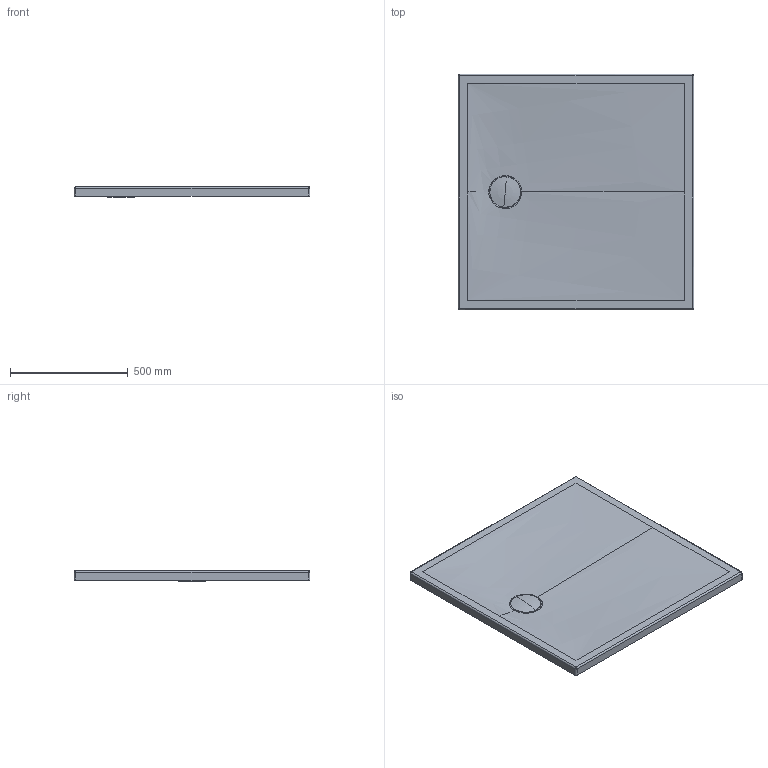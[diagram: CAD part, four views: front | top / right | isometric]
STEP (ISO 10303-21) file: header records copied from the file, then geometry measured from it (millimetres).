
FILE_DESCRIPTION(/* description */ (''),/* implementation_level */ '2;1');
FILE_NAME(/* name */ '720189',/* time_stamp */ '2019-03-04T16:21:07+01:00',/* author */ (''),/* organization */ (''),/* preprocessor_version */ 'ST-DEVELOPER v15',/* originating_system */ '',/* authorisation */ '');
FILE_SCHEMA (('AUTOMOTIVE_DESIGN'));
Length unit declared in the file: millimetre
Products named in the file (1): Document
Bounding box: 1000 x 1000 x 45.08 mm (x, y, z)
Volume: 85786 mm3; surface area: 1202840.9 mm2
Topology: 2 solids, 3 shells, 41 faces, 96 edges, 55 vertices
Faces by surface type: bspline 41
Entity records: 6600 total; most frequent: CARTESIAN_POINT 5471, B_SPLINE_CURVE_WITH_KNOTS 204, ORIENTED_EDGE 170, PCURVE 170, DEFINITIONAL_REPRESENTATION 170, SURFACE_CURVE 90, EDGE_CURVE 90, VERTEX_POINT 55
